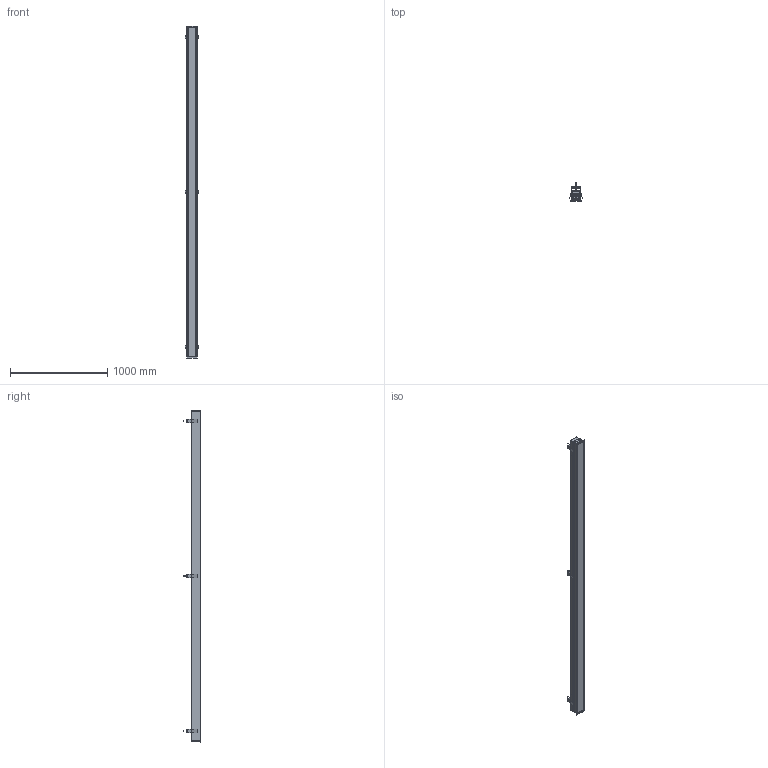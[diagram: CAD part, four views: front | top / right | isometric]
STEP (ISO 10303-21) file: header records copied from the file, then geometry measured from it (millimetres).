
FILE_DESCRIPTION(/* description */ (''),/* implementation_level */ '2;1');
FILE_NAME(/* name */ 'C:\Users\nathan\OneDrive - M LIGHT PTY LTD (1)\Engineering\CAD\PRODUCT ASSEMBLIES\SIGURI X (Ver 2)\Concept\Plastic Extrusion\CAD Simplified\Siguri X2 REC 12B Assembly.stp',/* time_stamp */ '2024-11-06T16:33:35+11:00',/* author */ ('nathan'),/* organization */ (''),/* preprocessor_version */ 'ST-DEVELOPER v18.1',/* originating_system */ 'Autodesk Inventor 2022',/* authorisation */ '');
FILE_SCHEMA (('AUTOMOTIVE_DESIGN { 1 0 10303 214 3 1 1 }'));
Products named in the file (18): Siguri X2 REC 12B Assembly - Simplified; Siguri 2 Rec; JIS B 1111 - Csunk M4 x 10 - H; Siguri2 Ext End Cap Bracket; ISO 4026 - M4 x 5; RF0013 - Spring Conical REV C; X105 Recess Body Bracket; JIS B 1111 - A M4 x 40 - H; Internal Body REPla 5; IP Strain Relief (5 Core); Air Vents; Internal Body REPla Inny Endcap 5; JIS B 1111 - Csunk M4 x 12 - H; Internal Body REPla Inny Endcap 5_1; Blaupunkt Bracket; ISO 7045 - M4 x 5 - 4.8 - H; Siguri2 Ext REC End Cap; JIS B 1111 - Csunk M4 x 8 - H
Assembly tree (53 placements, depth 2):
  Siguri X2 REC 12B Assembly - Simplified
    Siguri 2 Rec
    Siguri2 Ext REC End Cap  x2
    JIS B 1111 - Csunk M4 x 10 - H
    JIS B 1111 - Csunk M4 x 8 - H  x3
    Siguri2 Ext End Cap Bracket  x2
    ISO 4026 - M4 x 5  x4
    RF0013 - Spring Conical REV C  x3
    X105 Recess Body Bracket  x3
    JIS B 1111 - A M4 x 40 - H  x3
    Internal Body REPla 5
    IP Strain Relief (5 Core)
    Air Vents
    JIS B 1111 - Csunk M4 x 12 - H  x12
    Internal Body REPla Inny Endcap 5_1  x2
    Internal Body REPla Inny Endcap 5  x2
    Blaupunkt Bracket  x4
    ISO 7045 - M4 x 5 - 4.8 - H  x8
Bounding box: 136.92 x 182 x 3412 mm (x, y, z)
Volume: 19042182.5 mm3; surface area: 3823846 mm2
Topology: 53 solids, 53 shells, 2845 faces, 7347 edges, 4645 vertices
Faces by surface type: plane 1187, cylinder 725, cone 408, bspline 251, torus 247, sphere 27
Full cylindrical faces by diameter (mm): 3.2 x4, 3.571 x19, 3.621 x8, 4 x31, 4.1 x8, 4.5 x6, 5 x2, 7.2 x3, 8.4 x16, 10 x2, 21 x2, 24 x1, 28 x1
Entity records: 47253 total; most frequent: CARTESIAN_POINT 16852, ORIENTED_EDGE 6290, DIRECTION 6208, EDGE_CURVE 3145, AXIS2_PLACEMENT_3D 2324, VERTEX_POINT 2013, LINE 1560, VECTOR 1560
